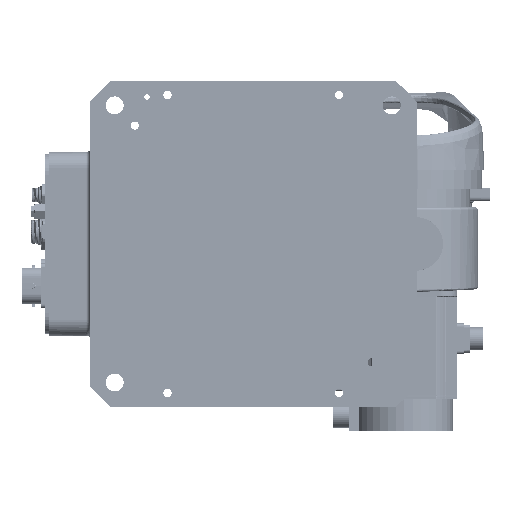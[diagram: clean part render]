
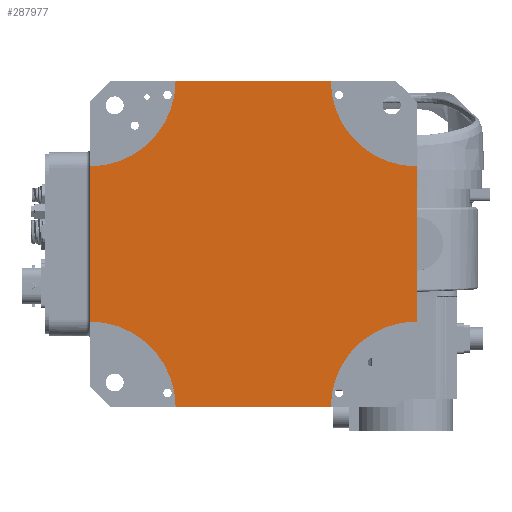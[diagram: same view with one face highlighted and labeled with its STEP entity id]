
A CAD part, front view. The second image highlights one B-rep face of the part: STEP entity #287977.
In plain terms, the highlighted planar face has unit normal (0, -1, 0).
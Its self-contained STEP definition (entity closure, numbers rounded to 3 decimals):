
#92017 = EDGE_LOOP ( 'NONE', ( #121710, #121586, #121516, #121535, #121490, #121644, #121583, #121671 ) ) ;
#112447 = VECTOR ( 'NONE', #121498, 1000. ) ;
#112485 = VECTOR ( 'NONE', #121915, 1000. ) ;
#112557 = VECTOR ( 'NONE', #122086, 1000. ) ;
#112689 = VECTOR ( 'NONE', #122586, 1000. ) ;
#113811 = VERTEX_POINT ( 'NONE', #332397 ) ;
#113894 = VERTEX_POINT ( 'NONE', #332715 ) ;
#113929 = VERTEX_POINT ( 'NONE', #332524 ) ;
#113946 = VERTEX_POINT ( 'NONE', #332516 ) ;
#113981 = VERTEX_POINT ( 'NONE', #332608 ) ;
#114004 = VERTEX_POINT ( 'NONE', #332532 ) ;
#114056 = VERTEX_POINT ( 'NONE', #332590 ) ;
#114106 = VERTEX_POINT ( 'NONE', #332616 ) ;
#121396 = LINE ( 'NONE', #121453, #112447 ) ;
#121453 = CARTESIAN_POINT ( 'NONE',  ( -95., -268., 200. ) ) ;
#121490 = ORIENTED_EDGE ( 'NONE', *, *, #209686, .T. ) ;
#121498 = DIRECTION ( 'NONE',  ( -1., 0., 0. ) ) ;
#121516 = ORIENTED_EDGE ( 'NONE', *, *, #209765, .T. ) ;
#121535 = ORIENTED_EDGE ( 'NONE', *, *, #217449, .T. ) ;
#121583 = ORIENTED_EDGE ( 'NONE', *, *, #209692, .T. ) ;
#121586 = ORIENTED_EDGE ( 'NONE', *, *, #217631, .T. ) ;
#121644 = ORIENTED_EDGE ( 'NONE', *, *, #217365, .T. ) ;
#121671 = ORIENTED_EDGE ( 'NONE', *, *, #217500, .T. ) ;
#121710 = ORIENTED_EDGE ( 'NONE', *, *, #209707, .T. ) ;
#121785 = LINE ( 'NONE', #121967, #112485 ) ;
#121915 = DIRECTION ( 'NONE',  ( 0., 0., 1. ) ) ;
#121967 = CARTESIAN_POINT ( 'NONE',  ( 200., -268., 95. ) ) ;
#122069 = LINE ( 'NONE', #122090, #112557 ) ;
#122086 = DIRECTION ( 'NONE',  ( 0., 0., -1. ) ) ;
#122090 = CARTESIAN_POINT ( 'NONE',  ( -200., -268., -95. ) ) ;
#122516 = LINE ( 'NONE', #122528, #112689 ) ;
#122528 = CARTESIAN_POINT ( 'NONE',  ( 95., -268., -200. ) ) ;
#122586 = DIRECTION ( 'NONE',  ( 1., 0., 0. ) ) ;
#180039 = AXIS2_PLACEMENT_3D ( 'NONE', #192014, #192024, #192041 ) ;
#191701 = FACE_OUTER_BOUND ( 'NONE', #92017, .T. ) ;
#191980 = PLANE ( 'NONE',  #180039 ) ;
#192014 = CARTESIAN_POINT ( 'NONE',  ( -200., -268., -200. ) ) ;
#192024 = DIRECTION ( 'NONE',  ( 0., -1., 0. ) ) ;
#192041 = DIRECTION ( 'NONE',  ( 1., 0., 0. ) ) ;
#209686 = EDGE_CURVE ( 'NONE', #113811, #114004, #259831, .T. ) ;
#209692 = EDGE_CURVE ( 'NONE', #113929, #114106, #259848, .T. ) ;
#209707 = EDGE_CURVE ( 'NONE', #113946, #113894, #259818, .T. ) ;
#209765 = EDGE_CURVE ( 'NONE', #114056, #113981, #260283, .T. ) ;
#217365 = EDGE_CURVE ( 'NONE', #114004, #113929, #121396, .T. ) ;
#217449 = EDGE_CURVE ( 'NONE', #113981, #113811, #121785, .T. ) ;
#217500 = EDGE_CURVE ( 'NONE', #114106, #113946, #122069, .T. ) ;
#217631 = EDGE_CURVE ( 'NONE', #113894, #114056, #122516, .T. ) ;
#259818 = CIRCLE ( 'NONE', #259869, 105. ) ;
#259831 = CIRCLE ( 'NONE', #259835, 105. ) ;
#259835 = AXIS2_PLACEMENT_3D ( 'NONE', #283725, #283755, #283760 ) ;
#259848 = CIRCLE ( 'NONE', #259860, 105. ) ;
#259860 = AXIS2_PLACEMENT_3D ( 'NONE', #283868, #283794, #283819 ) ;
#259869 = AXIS2_PLACEMENT_3D ( 'NONE', #283792, #283796, #283851 ) ;
#260098 = AXIS2_PLACEMENT_3D ( 'NONE', #284029, #283934, #283916 ) ;
#260283 = CIRCLE ( 'NONE', #260098, 105. ) ;
#283725 = CARTESIAN_POINT ( 'NONE',  ( 200., -268., 200. ) ) ;
#283755 = DIRECTION ( 'NONE',  ( 0., 1., 0. ) ) ;
#283760 = DIRECTION ( 'NONE',  ( 1., 0., 0. ) ) ;
#283792 = CARTESIAN_POINT ( 'NONE',  ( -200., -268., -200. ) ) ;
#283794 = DIRECTION ( 'NONE',  ( 0., 1., 0. ) ) ;
#283796 = DIRECTION ( 'NONE',  ( 0., 1., 0. ) ) ;
#283819 = DIRECTION ( 'NONE',  ( 1., 0., 0. ) ) ;
#283851 = DIRECTION ( 'NONE',  ( 1., 0., 0. ) ) ;
#283868 = CARTESIAN_POINT ( 'NONE',  ( -200., -268., 200. ) ) ;
#283916 = DIRECTION ( 'NONE',  ( 1., 0., 0. ) ) ;
#283934 = DIRECTION ( 'NONE',  ( 0., 1., 0. ) ) ;
#284029 = CARTESIAN_POINT ( 'NONE',  ( 200., -268., -200. ) ) ;
#287977 = ADVANCED_FACE ( 'NONE', ( #191701 ), #191980, .T. ) ;
#332397 = CARTESIAN_POINT ( 'NONE',  ( 200., -268., 95. ) ) ;
#332516 = CARTESIAN_POINT ( 'NONE',  ( -200., -268., -95. ) ) ;
#332524 = CARTESIAN_POINT ( 'NONE',  ( -95., -268., 200. ) ) ;
#332532 = CARTESIAN_POINT ( 'NONE',  ( 95., -268., 200. ) ) ;
#332590 = CARTESIAN_POINT ( 'NONE',  ( 95., -268., -200. ) ) ;
#332608 = CARTESIAN_POINT ( 'NONE',  ( 200., -268., -95. ) ) ;
#332616 = CARTESIAN_POINT ( 'NONE',  ( -200., -268., 95. ) ) ;
#332715 = CARTESIAN_POINT ( 'NONE',  ( -95., -268., -200. ) ) ;
